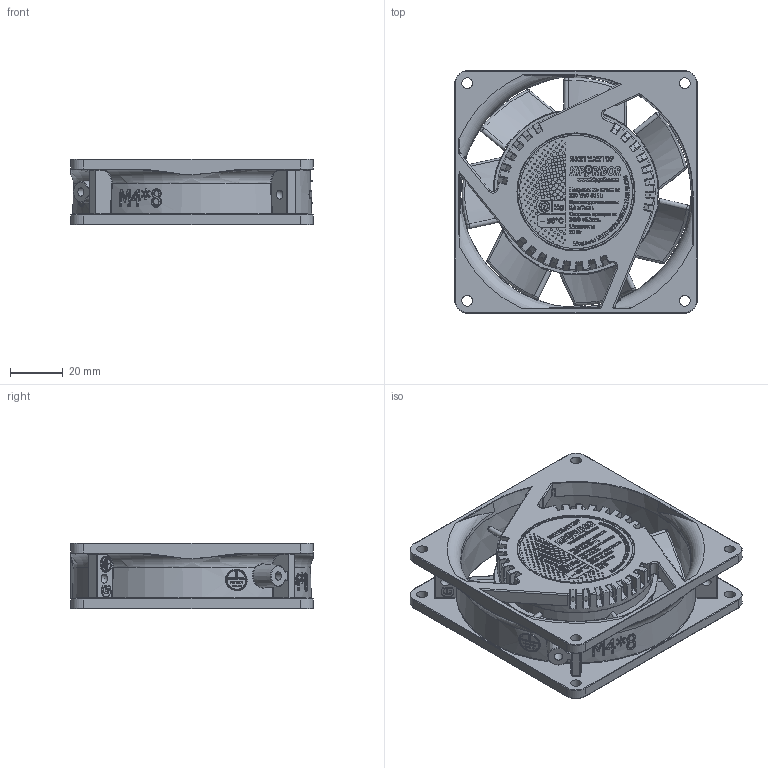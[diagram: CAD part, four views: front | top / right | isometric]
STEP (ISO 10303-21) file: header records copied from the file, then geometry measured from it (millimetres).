
FILE_DESCRIPTION(/* description */ (''),/* implementation_level */ '2;1');
FILE_NAME(/* name */ 'D:\Котлубовский\Вентиляторы\VENT-9225.220VAC.7MSHB.C50\VENT-9225.220VAC.7MSHB.C50 Вентилятор в сборе.stp',/* time_stamp */ '2022-03-28T19:44:08+07:00',/* author */ ('YURY_'),/* organization */ (''),/* preprocessor_version */ 'ST-DEVELOPER v17.2',/* originating_system */ 'Autodesk Inventor 2019',/* authorisation */ '');
FILE_SCHEMA (('AUTOMOTIVE_DESIGN { 1 0 10303 214 3 1 1 }'));
Length unit declared in the file: millimetre
Products named in the file (8): VENT-9225.220VAC.7MSHB.C50 Вентилятор 
в сборе; Корпус VENT-9225.220VAC.7MS
HB.C50; Крыльчатка VENT
-9225.220VAC.7MSHB.C50; Планка штекера; Провод VENT-9225.220VAC.7MS
HB.C50; Короб VENT-9225.220VAC.7MSHB.C
50; Винт 2.M3-6gx10 ГОСТ 
17475-80; Табличка VENT-9225.22
0VAC.7MSHB.C50
Assembly tree (8 placements, depth 2):
  VENT-9225.220VAC.7MSHB.C50 Вентилятор 
в сборе
    Корпус VENT-9225.220VAC.7MS
HB.C50
    Крыльчатка VENT
-9225.220VAC.7MSHB.C50
    Планка штекера  x2
    Провод VENT-9225.220VAC.7MS
HB.C50
    Короб VENT-9225.220VAC.7MSHB.C
50
    Винт 2.M3-6gx10 ГОСТ 
17475-80
    Табличка VENT-9225.22
0VAC.7MSHB.C50
Bounding box: 92 x 92 x 25.02 mm (x, y, z)
Volume: 98823.6 mm3; surface area: 56670.3 mm2
Topology: 8 solids, 8 shells, 6090 faces, 15068 edges, 9394 vertices
Faces by surface type: bspline 2817, plane 2010, cylinder 607, torus 359, sphere 205, cone 92
Full cylindrical faces by diameter (mm): 1 x2, 2.399 x1, 2.5 x1, 3 x1, 3.2 x2, 4.1 x8, 5.2 x3, 5.6 x1, 6 x2, 43 x1, 56.7 x1, 58.3 x1, 60 x1
Entity records: 224816 total; most frequent: CARTESIAN_POINT 98405, ORIENTED_EDGE 29852, DIRECTION 18704, EDGE_CURVE 14926, VERTEX_POINT 9347, EDGE_LOOP 6573, LINE 6476, VECTOR 6476
